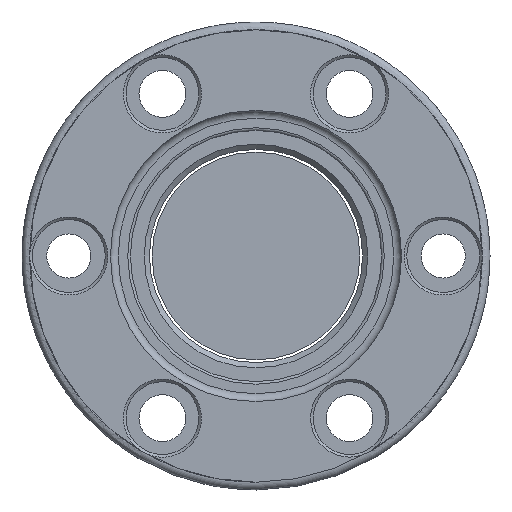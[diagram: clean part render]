
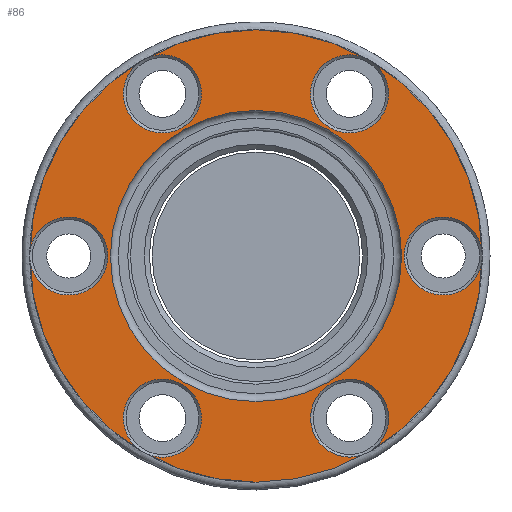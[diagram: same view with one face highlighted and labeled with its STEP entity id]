
A CAD part, front view. The second image highlights one B-rep face of the part: STEP entity #86.
In plain terms, the highlighted planar face has unit normal (0, 1, 0).
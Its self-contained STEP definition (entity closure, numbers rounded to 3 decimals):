
#66=PLANE('',#686);
#86=ADVANCED_FACE('',(#158,#159,#160,#161,#162,#163,#164,#165),#66,.F.);
#158=FACE_BOUND('',#262,.T.);
#159=FACE_BOUND('',#263,.T.);
#160=FACE_BOUND('',#264,.T.);
#161=FACE_BOUND('',#265,.T.);
#162=FACE_BOUND('',#266,.T.);
#163=FACE_BOUND('',#267,.T.);
#164=FACE_BOUND('',#268,.T.);
#165=FACE_BOUND('',#269,.T.);
#262=EDGE_LOOP('',(#377));
#263=EDGE_LOOP('',(#378));
#264=EDGE_LOOP('',(#379));
#265=EDGE_LOOP('',(#380));
#266=EDGE_LOOP('',(#381));
#267=EDGE_LOOP('',(#382));
#268=EDGE_LOOP('',(#383));
#269=EDGE_LOOP('',(#384));
#377=ORIENTED_EDGE('',*,*,#549,.T.);
#378=ORIENTED_EDGE('',*,*,#550,.T.);
#379=ORIENTED_EDGE('',*,*,#551,.T.);
#380=ORIENTED_EDGE('',*,*,#552,.T.);
#381=ORIENTED_EDGE('',*,*,#553,.T.);
#382=ORIENTED_EDGE('',*,*,#554,.T.);
#383=ORIENTED_EDGE('',*,*,#555,.T.);
#384=ORIENTED_EDGE('',*,*,#556,.T.);
#489=VERTEX_POINT('',#1029);
#490=VERTEX_POINT('',#1031);
#491=VERTEX_POINT('',#1033);
#492=VERTEX_POINT('',#1035);
#493=VERTEX_POINT('',#1037);
#494=VERTEX_POINT('',#1039);
#495=VERTEX_POINT('',#1041);
#496=VERTEX_POINT('',#1043);
#549=EDGE_CURVE('',#489,#489,#609,.T.);
#550=EDGE_CURVE('',#490,#490,#610,.T.);
#551=EDGE_CURVE('',#491,#491,#611,.T.);
#552=EDGE_CURVE('',#492,#492,#612,.T.);
#553=EDGE_CURVE('',#493,#493,#613,.T.);
#554=EDGE_CURVE('',#494,#494,#614,.T.);
#555=EDGE_CURVE('',#495,#495,#615,.T.);
#556=EDGE_CURVE('',#496,#496,#616,.T.);
#609=CIRCLE('',#678,4.75);
#610=CIRCLE('',#679,5.);
#611=CIRCLE('',#680,5.);
#612=CIRCLE('',#681,5.);
#613=CIRCLE('',#682,5.);
#614=CIRCLE('',#683,4.75);
#615=CIRCLE('',#684,43.5);
#616=CIRCLE('',#685,28.);
#678=AXIS2_PLACEMENT_3D('',#1028,#821,#822);
#679=AXIS2_PLACEMENT_3D('',#1030,#823,#824);
#680=AXIS2_PLACEMENT_3D('',#1032,#825,#826);
#681=AXIS2_PLACEMENT_3D('',#1034,#827,#828);
#682=AXIS2_PLACEMENT_3D('',#1036,#829,#830);
#683=AXIS2_PLACEMENT_3D('',#1038,#831,#832);
#684=AXIS2_PLACEMENT_3D('',#1040,#833,#834);
#685=AXIS2_PLACEMENT_3D('',#1042,#835,#836);
#686=AXIS2_PLACEMENT_3D('',#1044,#837,#838);
#821=DIRECTION('',(0.,-1.,0.));
#822=DIRECTION('',(0.,0.,-1.));
#823=DIRECTION('',(0.,-1.,0.));
#824=DIRECTION('',(0.,0.,-1.));
#825=DIRECTION('',(0.,-1.,0.));
#826=DIRECTION('',(0.,0.,-1.));
#827=DIRECTION('',(0.,-1.,0.));
#828=DIRECTION('',(0.,0.,-1.));
#829=DIRECTION('',(0.,-1.,0.));
#830=DIRECTION('',(0.,0.,-1.));
#831=DIRECTION('',(0.,-1.,0.));
#832=DIRECTION('',(0.,0.,-1.));
#833=DIRECTION('',(0.,1.,0.));
#834=DIRECTION('',(0.,0.,-1.));
#835=DIRECTION('',(0.,-1.,0.));
#836=DIRECTION('',(0.,0.,-1.));
#837=DIRECTION('',(0.,-1.,0.));
#838=DIRECTION('',(0.,0.,-1.));
#1028=CARTESIAN_POINT('',(-36.,16.,0.));
#1029=CARTESIAN_POINT('',(-36.,16.,-4.75));
#1030=CARTESIAN_POINT('',(-18.,16.,31.177));
#1031=CARTESIAN_POINT('',(-18.,16.,26.177));
#1032=CARTESIAN_POINT('',(18.,16.,-31.177));
#1033=CARTESIAN_POINT('',(18.,16.,-36.177));
#1034=CARTESIAN_POINT('',(-18.,16.,-31.177));
#1035=CARTESIAN_POINT('',(-18.,16.,-36.177));
#1036=CARTESIAN_POINT('',(18.,16.,31.177));
#1037=CARTESIAN_POINT('',(18.,16.,26.177));
#1038=CARTESIAN_POINT('',(36.,16.,0.));
#1039=CARTESIAN_POINT('',(36.,16.,-4.75));
#1040=CARTESIAN_POINT('',(0.,16.,0.));
#1041=CARTESIAN_POINT('',(0.,16.,-43.5));
#1042=CARTESIAN_POINT('',(0.,16.,0.));
#1043=CARTESIAN_POINT('',(0.,16.,-28.));
#1044=CARTESIAN_POINT('',(0.,16.,0.));
